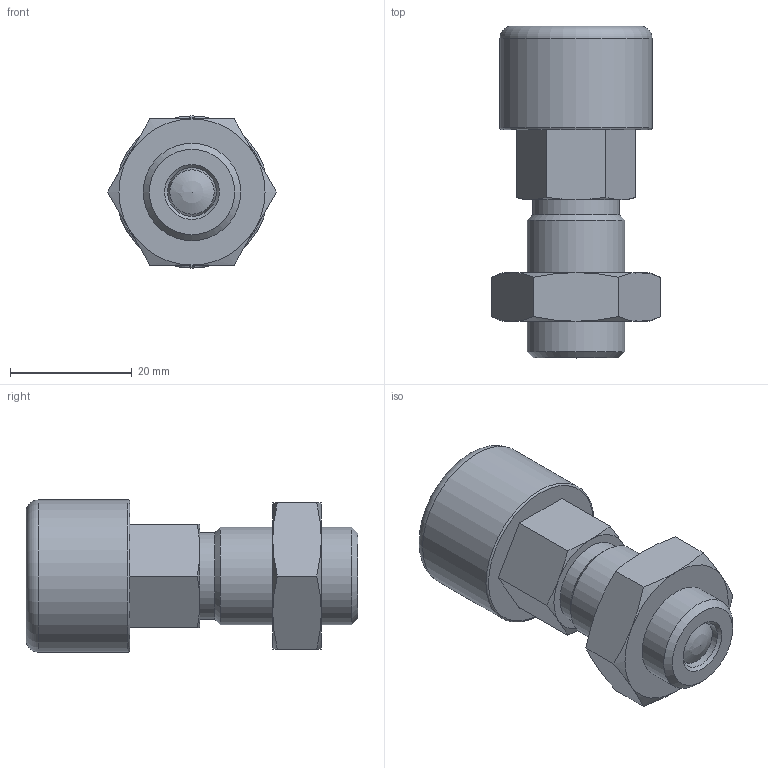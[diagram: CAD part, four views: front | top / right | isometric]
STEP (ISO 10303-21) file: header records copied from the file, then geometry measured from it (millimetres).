
FILE_DESCRIPTION( ( 'STEP AP203' ), '1' );
FILE_NAME( 'C:/Temp/Ganter_Step_05_03_2020/data/3_1/gn514/gn514_ak/Locking plunger GN 514-8-AK (deactivated).stp', '2020-03-12T08:32:08', ( 'License CC BY-ND 4.0' ), ( 'CADENAS' ), ' ', 'PARTsolutions', ' ' );
FILE_SCHEMA( ( 'CONFIG_CONTROL_DESIGN' ) );
Length unit declared in the file: millimetre
Products named in the file (3): Locking plunger GN 514-8-AK (deactivated); _Locking plunger GN 514-8-AK (deactivated)-1; _Locking plunger GN 514-8-AK (deactivated)-2
Assembly tree (2 placements, depth 2):
  Locking plunger GN 514-8-AK (deactivated)
    _Locking plunger GN 514-8-AK (deactivated)-1
    _Locking plunger GN 514-8-AK (deactivated)-2
Bounding box: 27.71 x 54.5 x 25 mm (x, y, z)
Volume: 15871.6 mm3; surface area: 9205 mm2
Topology: 2 solids, 2 shells, 89 faces, 180 edges, 107 vertices
Faces by surface type: plane 34, cone 23, torus 16, cylinder 14, bspline 1, sphere 1
Full cylindrical faces by diameter (mm): 8 x6, 12 x4, 14.2 x1, 16 x2, 25 x1
Entity records: 2365 total; most frequent: CARTESIAN_POINT 601, DIRECTION 346, ORIENTED_EDGE 278, AXIS2_PLACEMENT_3D 158, EDGE_LOOP 140, EDGE_CURVE 139, FACE_OUTER_BOUND 119, VERTEX_POINT 105
